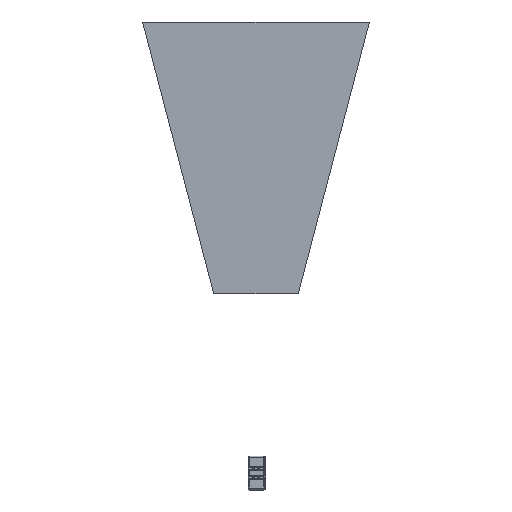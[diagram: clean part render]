
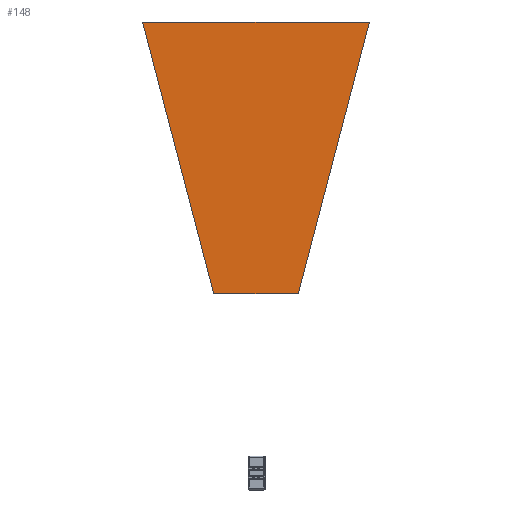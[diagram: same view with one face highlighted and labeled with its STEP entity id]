
A CAD part, left-side view. The second image highlights one B-rep face of the part: STEP entity #148.
In plain terms, the highlighted planar face has unit normal (-1, 0, 0).
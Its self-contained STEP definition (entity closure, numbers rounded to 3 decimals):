
#33=DIRECTION('',(0.,-0.253,0.968));
#34=VECTOR('',#33,930.175);
#35=CARTESIAN_POINT('',(19.59,-110.,536.17));
#36=LINE('',#35,#34);
#37=DIRECTION('',(0.,-1.,0.));
#38=VECTOR('',#37,280.);
#39=CARTESIAN_POINT('',(19.59,170.,536.17));
#40=LINE('',#39,#38);
#41=DIRECTION('',(0.,-0.253,-0.968));
#42=VECTOR('',#41,930.175);
#43=CARTESIAN_POINT('',(19.59,405.,1436.17));
#44=LINE('',#43,#42);
#45=DIRECTION('',(0.,1.,0.));
#46=VECTOR('',#45,750.);
#47=CARTESIAN_POINT('',(19.59,-345.,1436.17));
#48=LINE('',#47,#46);
#57=CARTESIAN_POINT('',(19.59,-110.,536.17));
#58=CARTESIAN_POINT('',(19.59,-345.,1436.17));
#59=VERTEX_POINT('',#57);
#60=VERTEX_POINT('',#58);
#61=CARTESIAN_POINT('',(19.59,405.,1436.17));
#62=VERTEX_POINT('',#61);
#63=CARTESIAN_POINT('',(19.59,170.,536.17));
#64=VERTEX_POINT('',#63);
#137=CARTESIAN_POINT('',(19.59,0.,0.));
#138=DIRECTION('',(-1.,0.,0.));
#139=DIRECTION('',(0.,1.,0.));
#140=AXIS2_PLACEMENT_3D('',#137,#138,#139);
#141=PLANE('',#140);
#142=ORIENTED_EDGE('',*,*,#89,.F.);
#143=ORIENTED_EDGE('',*,*,#104,.F.);
#144=ORIENTED_EDGE('',*,*,#118,.F.);
#145=ORIENTED_EDGE('',*,*,#131,.F.);
#146=EDGE_LOOP('',(#142,#143,#144,#145));
#147=FACE_OUTER_BOUND('',#146,.F.);
#148=ADVANCED_FACE('',(#147),#141,.T.);
#89=EDGE_CURVE('',#59,#60,#36,.T.);
#104=EDGE_CURVE('',#64,#59,#40,.T.);
#118=EDGE_CURVE('',#62,#64,#44,.T.);
#131=EDGE_CURVE('',#60,#62,#48,.T.);
